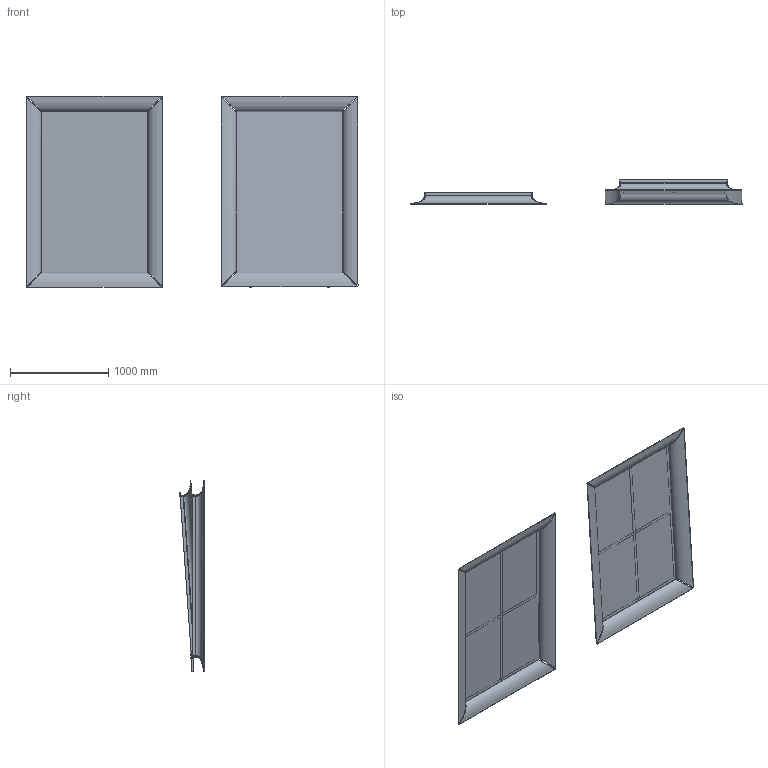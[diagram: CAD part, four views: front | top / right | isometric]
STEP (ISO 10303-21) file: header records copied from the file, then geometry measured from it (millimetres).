
FILE_DESCRIPTION(/* description */ (''),/* implementation_level */ '2;1');
FILE_NAME(/* name */ 'CAADRE~1',/* time_stamp */ '2018-10-08T15:25:22+02:00',/* author */ (''),/* organization */ (''),/* preprocessor_version */ 'ST-DEVELOPER v16.5',/* originating_system */ '',/* authorisation */ '');
FILE_SCHEMA (('CONFIG_CONTROL_DESIGN'));
Length unit declared in the file: millimetre
Products named in the file (1): Document
Bounding box: 3379.08 x 246.85 x 1953.32 mm (x, y, z)
Volume: 47919457.8 mm3; surface area: 14502216.8 mm2
Topology: 17 solids, 17 shells, 187 faces, 449 edges, 280 vertices
Faces by surface type: bspline 103, plane 84
Entity records: 6815 total; most frequent: CARTESIAN_POINT 3729, ORIENTED_EDGE 882, EDGE_CURVE 441, B_SPLINE_CURVE_WITH_KNOTS 441, VERTEX_POINT 272, EDGE_LOOP 189, ADVANCED_FACE 187, FACE_OUTER_BOUND 187
